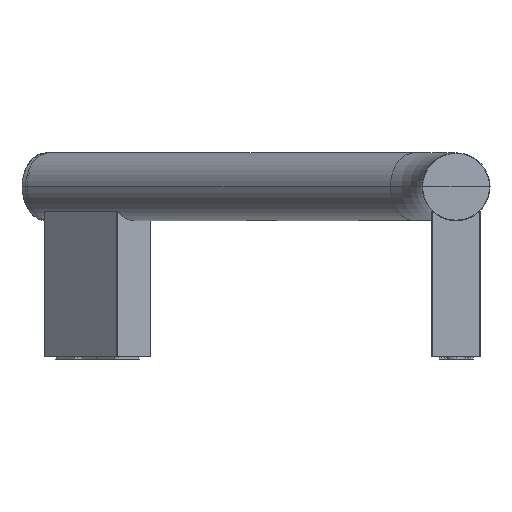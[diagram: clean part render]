
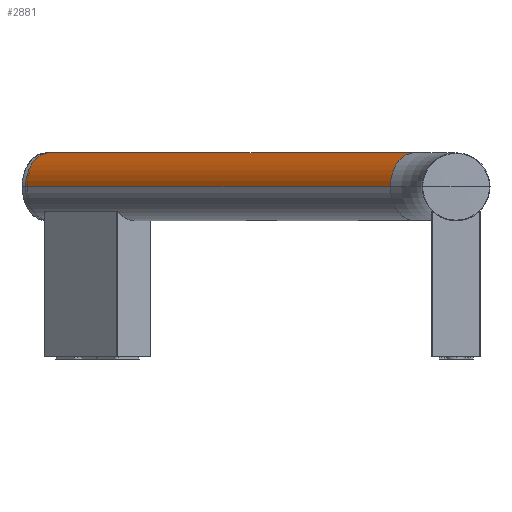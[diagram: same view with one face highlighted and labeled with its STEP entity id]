
A CAD part, left-side view. The second image highlights one B-rep face of the part: STEP entity #2881.
In plain terms, the highlighted cylindrical face has radius 12.5 mm (diameter 25 mm), a partial arc.
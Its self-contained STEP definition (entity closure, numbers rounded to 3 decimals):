
#100 = AXIS2_PLACEMENT_3D ( 'NONE', #4522, #2381, #1877 ) ;
#165 = ORIENTED_EDGE ( 'NONE', *, *, #5178, .T. ) ;
#316 = ORIENTED_EDGE ( 'NONE', *, *, #4929, .F. ) ;
#551 = CYLINDRICAL_SURFACE ( 'NONE', #100, 12.5 ) ;
#728 = ORIENTED_EDGE ( 'NONE', *, *, #1377, .T. ) ;
#839 = CARTESIAN_POINT ( 'NONE',  ( 114.49, 149.888, -50.843 ) ) ;
#897 = DIRECTION ( 'NONE',  ( -0.707, 0.707, 0. ) ) ;
#1124 = FACE_OUTER_BOUND ( 'NONE', #6495, .T. ) ;
#1247 = VERTEX_POINT ( 'NONE', #1331 ) ;
#1290 = CARTESIAN_POINT ( 'NONE',  ( -19.861, 15.538, -50.843 ) ) ;
#1331 = CARTESIAN_POINT ( 'NONE',  ( 96.812, 167.566, -50.843 ) ) ;
#1377 = EDGE_CURVE ( 'NONE', #6487, #5837, #1986, .T. ) ;
#1877 = DIRECTION ( 'NONE',  ( -0.707, 0.707, 0. ) ) ;
#1932 = CARTESIAN_POINT ( 'NONE',  ( -37.538, 33.216, -50.843 ) ) ;
#1986 = CIRCLE ( 'NONE', #2548, 12.5 ) ;
#2381 = DIRECTION ( 'NONE',  ( 0.707, 0.707, 0. ) ) ;
#2548 = AXIS2_PLACEMENT_3D ( 'NONE', #5630, #2552, #897 ) ;
#2552 = DIRECTION ( 'NONE',  ( 0.707, 0.707, 0. ) ) ;
#2632 = EDGE_CURVE ( 'NONE', #1247, #3263, #6849, .T. ) ;
#2834 = CARTESIAN_POINT ( 'NONE',  ( 105.651, 158.727, -50.843 ) ) ;
#2881 = ADVANCED_FACE ( 'NONE', ( #1124 ), #551, .T. ) ;
#2905 = DIRECTION ( 'NONE',  ( -0.707, 0.707, 0. ) ) ;
#3263 = VERTEX_POINT ( 'NONE', #839 ) ;
#3546 = VECTOR ( 'NONE', #5751, 1000. ) ;
#3603 = CARTESIAN_POINT ( 'NONE',  ( -19.861, 15.538, -50.843 ) ) ;
#3626 = LINE ( 'NONE', #4177, #3546 ) ;
#4177 = CARTESIAN_POINT ( 'NONE',  ( -37.538, 33.216, -50.843 ) ) ;
#4522 = CARTESIAN_POINT ( 'NONE',  ( -28.699, 24.377, -50.843 ) ) ;
#4929 = EDGE_CURVE ( 'NONE', #6487, #1247, #3626, .T. ) ;
#5178 = EDGE_CURVE ( 'NONE', #5837, #3263, #5876, .T. ) ;
#5434 = VECTOR ( 'NONE', #6059, 1000. ) ;
#5630 = CARTESIAN_POINT ( 'NONE',  ( -28.699, 24.377, -50.843 ) ) ;
#5751 = DIRECTION ( 'NONE',  ( 0.707, 0.707, 0. ) ) ;
#5837 = VERTEX_POINT ( 'NONE', #3603 ) ;
#5876 = LINE ( 'NONE', #1290, #5434 ) ;
#6059 = DIRECTION ( 'NONE',  ( 0.707, 0.707, 0. ) ) ;
#6072 = AXIS2_PLACEMENT_3D ( 'NONE', #2834, #6090, #2905 ) ;
#6090 = DIRECTION ( 'NONE',  ( 0.707, 0.707, 0. ) ) ;
#6487 = VERTEX_POINT ( 'NONE', #1932 ) ;
#6495 = EDGE_LOOP ( 'NONE', ( #728, #165, #6946, #316 ) ) ;
#6849 = CIRCLE ( 'NONE', #6072, 12.5 ) ;
#6946 = ORIENTED_EDGE ( 'NONE', *, *, #2632, .F. ) ;
